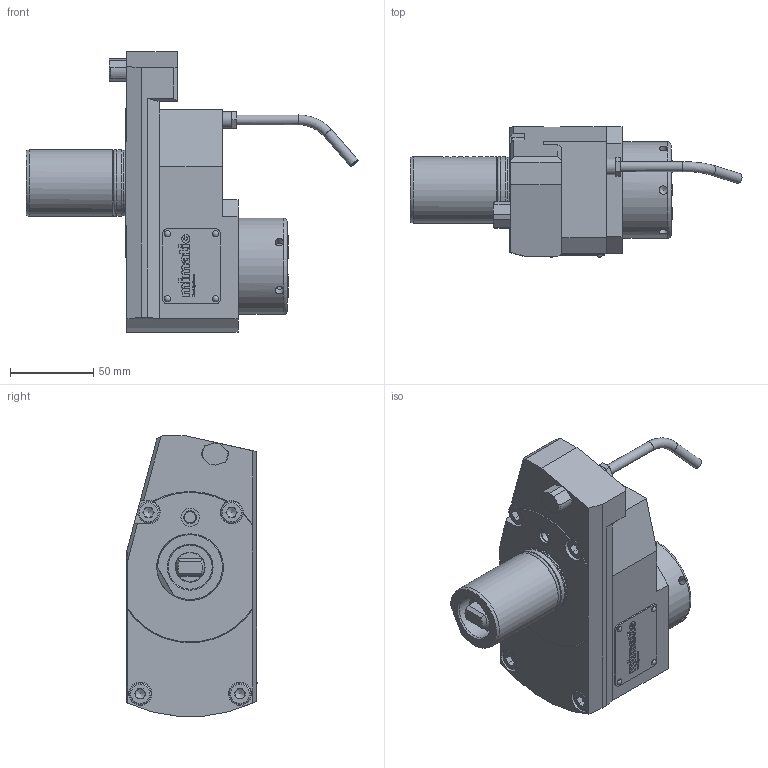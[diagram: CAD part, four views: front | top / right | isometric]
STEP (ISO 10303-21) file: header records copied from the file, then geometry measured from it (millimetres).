
FILE_DESCRIPTION(/* description */ (''),/* implementation_level */ '2;1');
FILE_NAME(/* name */ '190637',/* time_stamp */ '2020-02-25T11:13:21+01:00',/* author */ (''),/* organization */ (''),/* preprocessor_version */ 'ST-DEVELOPER v16.5',/* originating_system */ 'HiCAD 2017 2201.0 Build 268',/* authorisation */ '');
FILE_SCHEMA (('AUTOMOTIVE_DESIGN { 1 0 10303 214 1 1 1 1 }'));
Products named in the file (11): Root; Teil; ABCDEFGHIJKLMNOPQRSTUVWXYZ[\]^_`ABCDEFGHIJKLMNOP뱐趰ǝ; GEWINDE; DIN 13-M40x1,5; DIN 76-M6
Assembly tree (10 placements, depth 3):
  Root
    Teil
      ABCDEFGHIJKLMNOPQRSTUVWXYZ[\]^_`ABCDEFGHIJKLMNOP뱐趰ǝ
      GEWINDE
      GEWINDE
      GEWINDE
      GEWINDE
      GEWINDE
      GEWINDE
      DIN 13-M40x1,5
      DIN 76-M6
Bounding box: 199.67 x 78.29 x 168.67 mm (x, y, z)
Volume: 791259.3 mm3; surface area: 94630.3 mm2
Topology: 11 solids, 18 shells, 725 faces, 1863 edges, 1225 vertices
Faces by surface type: plane 417, cylinder 203, cone 38, bspline 38, torus 25, sphere 4
Full cylindrical faces by diameter (mm): 2 x4, 2.2 x4, 4 x2, 4.773 x3, 5.1 x6, 6 x5, 6.466 x8, 6.8 x1, 7.65 x1, 8 x8, 8.773 x2, 9 x5, 10 x1, 11.01 x1, 11.1 x1, 13 x4, 14 x3, 18 x1, 23.5 x1, 26.5 x1, 27 x1, 36.5 x2, 38.16 x3, 39.4 x1, 40 x5, 40.5 x1, 50 x1, 58 x1
Entity records: 48459 total; most frequent: CARTESIAN_POINT 12476, PRESENTATION_STYLE_ASSIGNMENT 3755, OVER_RIDING_STYLED_ITEM 3745, COLOUR_RGB 3334, DRAUGHTING_PRE_DEFINED_CURVE_FONT 3332, CURVE_STYLE 3332, ORIENTED_EDGE 3332, DIRECTION 3287
